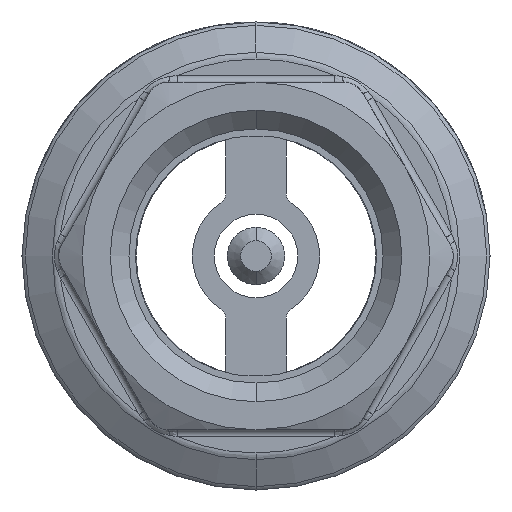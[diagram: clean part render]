
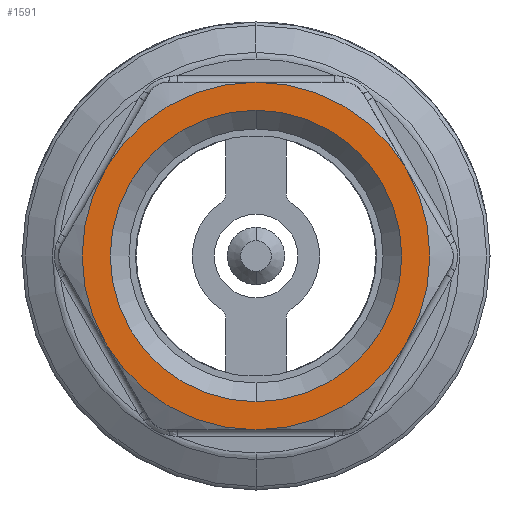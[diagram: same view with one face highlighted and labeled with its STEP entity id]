
A CAD part, front view. The second image highlights one B-rep face of the part: STEP entity #1591.
In plain terms, the highlighted planar face has unit normal (0, -1, 0).
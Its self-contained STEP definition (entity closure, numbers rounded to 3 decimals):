
#147 = DIRECTION ( 'NONE',  ( 0., -1., 0. ) ) ;
#307 = EDGE_CURVE ( 'NONE', #8433, #9965, #3850, .T. ) ;
#663 = CARTESIAN_POINT ( 'NONE',  ( 11.258, -47.991, -6.5 ) ) ;
#697 = DIRECTION ( 'NONE',  ( 0., 0., 1. ) ) ;
#849 = CIRCLE ( 'NONE', #10776, 13. ) ;
#899 = DIRECTION ( 'NONE',  ( 0., 0., 1. ) ) ;
#1247 = CARTESIAN_POINT ( 'NONE',  ( 0., -47.991, 0. ) ) ;
#1491 = EDGE_LOOP ( 'NONE', ( #11560, #3472, #12945, #3856, #12941, #2674 ) ) ;
#1591 = ADVANCED_FACE ( 'NONE', ( #13341, #7969 ), #10228, .T. ) ;
#1759 = VERTEX_POINT ( 'NONE', #4113 ) ;
#1760 = CARTESIAN_POINT ( 'NONE',  ( 11.258, -47.991, 6.5 ) ) ;
#1862 = AXIS2_PLACEMENT_3D ( 'NONE', #5819, #13383, #6943 ) ;
#1933 = VERTEX_POINT ( 'NONE', #11349 ) ;
#2017 = EDGE_CURVE ( 'NONE', #7959, #8609, #2979, .T. ) ;
#2328 = DIRECTION ( 'NONE',  ( 0., 0., 1. ) ) ;
#2674 = ORIENTED_EDGE ( 'NONE', *, *, #9309, .T. ) ;
#2920 = ORIENTED_EDGE ( 'NONE', *, *, #11114, .F. ) ;
#2979 = CIRCLE ( 'NONE', #8660, 13. ) ;
#3456 = EDGE_CURVE ( 'NONE', #8609, #8433, #3771, .T. ) ;
#3472 = ORIENTED_EDGE ( 'NONE', *, *, #7569, .T. ) ;
#3771 = CIRCLE ( 'NONE', #7875, 13. ) ;
#3850 = CIRCLE ( 'NONE', #6857, 13. ) ;
#3856 = ORIENTED_EDGE ( 'NONE', *, *, #3456, .T. ) ;
#3915 = CARTESIAN_POINT ( 'NONE',  ( 0., -47.991, -10.9 ) ) ;
#4113 = CARTESIAN_POINT ( 'NONE',  ( 0., -47.991, 10.9 ) ) ;
#4255 = CARTESIAN_POINT ( 'NONE',  ( 0., -47.991, 0. ) ) ;
#4504 = VERTEX_POINT ( 'NONE', #12578 ) ;
#5359 = DIRECTION ( 'NONE',  ( 0., 0., 1. ) ) ;
#5514 = CIRCLE ( 'NONE', #1862, 10.9 ) ;
#5819 = CARTESIAN_POINT ( 'NONE',  ( 0., -47.991, 0. ) ) ;
#5855 = CIRCLE ( 'NONE', #11621, 13. ) ;
#5896 = DIRECTION ( 'NONE',  ( 0., -1., 0. ) ) ;
#6065 = CARTESIAN_POINT ( 'NONE',  ( -11.258, -47.991, -6.5 ) ) ;
#6120 = CIRCLE ( 'NONE', #11252, 13. ) ;
#6283 = CARTESIAN_POINT ( 'NONE',  ( 0., -47.991, 0. ) ) ;
#6381 = CIRCLE ( 'NONE', #6838, 10.9 ) ;
#6710 = CARTESIAN_POINT ( 'NONE',  ( 0., -47.991, 0. ) ) ;
#6838 = AXIS2_PLACEMENT_3D ( 'NONE', #13878, #7462, #899 ) ;
#6857 = AXIS2_PLACEMENT_3D ( 'NONE', #11727, #11707, #11676 ) ;
#6943 = DIRECTION ( 'NONE',  ( 0., 0., 1. ) ) ;
#7261 = VERTEX_POINT ( 'NONE', #3915 ) ;
#7262 = DIRECTION ( 'NONE',  ( 0., -1., 0. ) ) ;
#7421 = DIRECTION ( 'NONE',  ( 0., 0., 1. ) ) ;
#7462 = DIRECTION ( 'NONE',  ( 0., -1., 0. ) ) ;
#7495 = AXIS2_PLACEMENT_3D ( 'NONE', #12391, #5896, #13468 ) ;
#7567 = ORIENTED_EDGE ( 'NONE', *, *, #10359, .F. ) ;
#7569 = EDGE_CURVE ( 'NONE', #4504, #7959, #849, .T. ) ;
#7806 = DIRECTION ( 'NONE',  ( 0., 0., 1. ) ) ;
#7875 = AXIS2_PLACEMENT_3D ( 'NONE', #6710, #147, #7806 ) ;
#7959 = VERTEX_POINT ( 'NONE', #6065 ) ;
#7969 = FACE_OUTER_BOUND ( 'NONE', #1491, .T. ) ;
#8433 = VERTEX_POINT ( 'NONE', #663 ) ;
#8609 = VERTEX_POINT ( 'NONE', #12875 ) ;
#8660 = AXIS2_PLACEMENT_3D ( 'NONE', #6283, #13831, #7421 ) ;
#8886 = DIRECTION ( 'NONE',  ( 0., -1., 0. ) ) ;
#9309 = EDGE_CURVE ( 'NONE', #9965, #1933, #6120, .T. ) ;
#9965 = VERTEX_POINT ( 'NONE', #1760 ) ;
#10228 = PLANE ( 'NONE',  #7495 ) ;
#10359 = EDGE_CURVE ( 'NONE', #7261, #1759, #6381, .T. ) ;
#10776 = AXIS2_PLACEMENT_3D ( 'NONE', #13686, #7262, #697 ) ;
#11002 = EDGE_CURVE ( 'NONE', #1933, #4504, #5855, .T. ) ;
#11114 = EDGE_CURVE ( 'NONE', #1759, #7261, #5514, .T. ) ;
#11252 = AXIS2_PLACEMENT_3D ( 'NONE', #4255, #11867, #5359 ) ;
#11349 = CARTESIAN_POINT ( 'NONE',  ( 0., -47.991, 13. ) ) ;
#11560 = ORIENTED_EDGE ( 'NONE', *, *, #11002, .T. ) ;
#11621 = AXIS2_PLACEMENT_3D ( 'NONE', #1247, #8886, #2328 ) ;
#11676 = DIRECTION ( 'NONE',  ( 0., 0., 1. ) ) ;
#11707 = DIRECTION ( 'NONE',  ( 0., -1., 0. ) ) ;
#11727 = CARTESIAN_POINT ( 'NONE',  ( 0., -47.991, 0. ) ) ;
#11867 = DIRECTION ( 'NONE',  ( 0., -1., 0. ) ) ;
#12391 = CARTESIAN_POINT ( 'NONE',  ( 13., -47.991, 0. ) ) ;
#12578 = CARTESIAN_POINT ( 'NONE',  ( -11.258, -47.991, 6.5 ) ) ;
#12868 = EDGE_LOOP ( 'NONE', ( #2920, #7567 ) ) ;
#12875 = CARTESIAN_POINT ( 'NONE',  ( 0., -47.991, -13. ) ) ;
#12941 = ORIENTED_EDGE ( 'NONE', *, *, #307, .T. ) ;
#12945 = ORIENTED_EDGE ( 'NONE', *, *, #2017, .T. ) ;
#13341 = FACE_BOUND ( 'NONE', #12868, .T. ) ;
#13383 = DIRECTION ( 'NONE',  ( 0., -1., 0. ) ) ;
#13468 = DIRECTION ( 'NONE',  ( 0., 0., 1. ) ) ;
#13686 = CARTESIAN_POINT ( 'NONE',  ( 0., -47.991, 0. ) ) ;
#13831 = DIRECTION ( 'NONE',  ( 0., -1., 0. ) ) ;
#13878 = CARTESIAN_POINT ( 'NONE',  ( 0., -47.991, 0. ) ) ;
